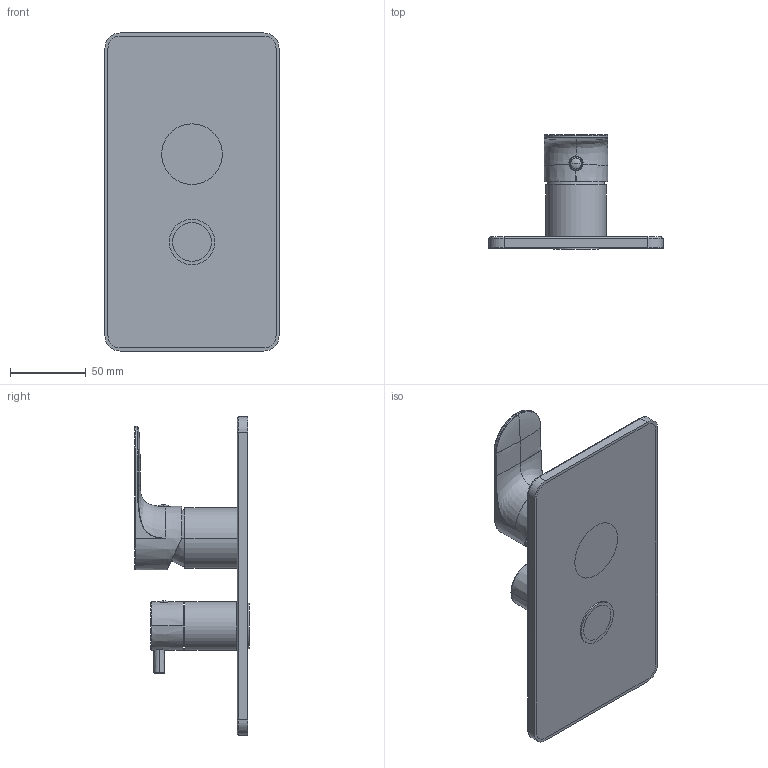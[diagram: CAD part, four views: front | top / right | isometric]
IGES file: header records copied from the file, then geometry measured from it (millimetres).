
Start section:  PTC IGES file: 64541a_sw0001.igs
Global section: file name: 64541a_sw0001.igs; native system: Creo Parametric by PTC Inc.; preprocessor: 2018100; author: volponeff; organization: Unknown; date: 20200605.082708; units: millimetre
Bounding box: 115 x 75.6 x 210 mm (x, y, z)
Surface area: 132699.7 mm2 (no closed solid volume)
Topology: 0 solids, 0 shells, 305 faces, 1506 edges, 1500 vertices
Faces by surface type: revolution 155, bspline 148, extrusion 2
